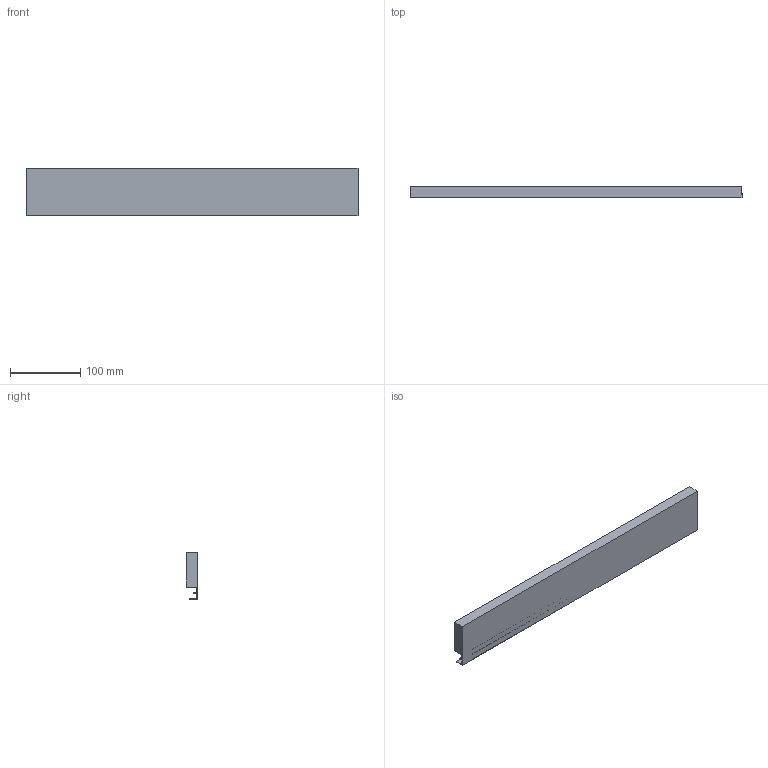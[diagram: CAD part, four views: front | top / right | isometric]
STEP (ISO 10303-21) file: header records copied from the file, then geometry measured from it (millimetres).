
FILE_DESCRIPTION (( 'STEP AP214' ), '1' );
FILE_NAME ('Innenschub-Blendenprofil_KAB600_S18.step', '2010-09-23T12:26:59', ( 'grass' ), ( '' ), 'SwSTEP 2.0', 'SolidWorks 2010', '' );
FILE_SCHEMA (( 'AUTOMOTIVE_DESIGN' ));
Length unit declared in the file: millimetre
Products named in the file (1): Innenschub-Blendenprofil_KAB600_S18
Bounding box: 473 x 15.9 x 67.6 mm (x, y, z)
Volume: 392178.3 mm3; surface area: 94495.6 mm2
Topology: 1 solids, 1 shells, 17 faces, 42 edges, 28 vertices
Faces by surface type: plane 15, cylinder 2
Entity records: 534 total; most frequent: CARTESIAN_POINT 88, ORIENTED_EDGE 84, DIRECTION 82, EDGE_CURVE 42, LINE 38, VECTOR 38, VERTEX_POINT 28, AXIS2_PLACEMENT_3D 22
